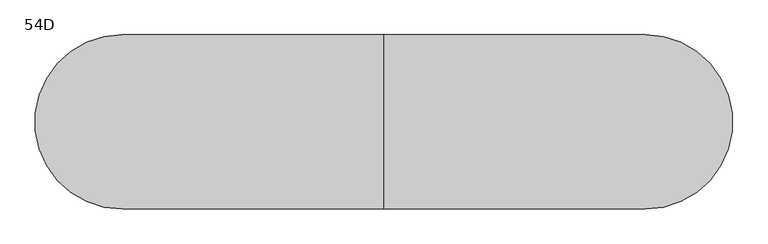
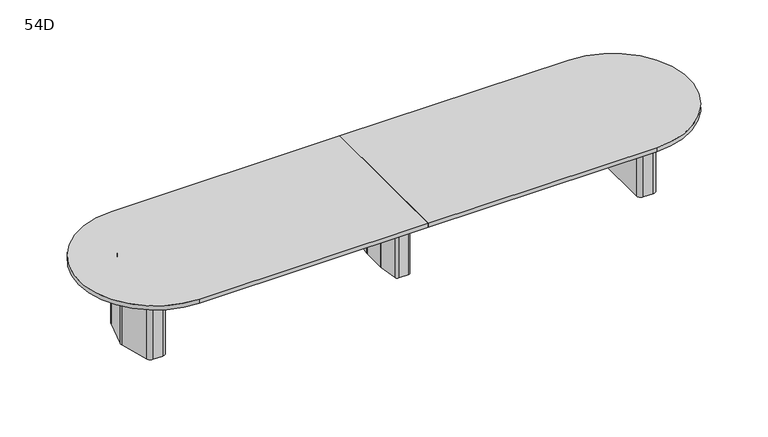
"""IFC4 building model written with IfcOpenShell, lengths in millimetres: furniture geometry, Coalesse_AM_Table_Conference_ETable2_Racetrack_18ft_ThreeBase : 54D."""

from ifc_helpers import new_model, si_unit, point, frame, frame_2d, origin, place, context, project, spatial, polyline, circle_curve, trimmed, segment, composite_curve, outline, extrude, source, transform, mapped, element, save
from ifc_brep_helpers import plane_surface, cylinder_surface, revolved_surface, advanced_brep


def furniture_54d_5d23f60c(model_context):
    return source(origin(), model_context, "Body", "SolidModel", [
        advanced_brep(
        [(35.71875, 206.375, 3.175), (10.31875, 231.775, 3.175), (-10.31875, 231.775, 3.175), (-35.71875, 206.375, 3.175), (-35.71875, -206.375, 3.175), (-10.31875, -231.775, 3.175), (10.31875, -231.775, 3.175), (35.71875, -206.375, 3.175), (-61.11875, 206.375, 0.0), (-10.31875, 257.175, 0.0), (10.31875, 257.175, 0.0), (61.11875, 206.375, 0.0), (61.11875, -206.375, 0.0), (10.31875, -257.175, 0.0), (-10.31875, -257.175, 0.0), (-61.11875, -206.375, 0.0), (-61.11875, -206.375, 3.175), (-61.11875, 206.375, 3.175), (-10.31875, -257.175, 3.175), (10.31875, -257.175, 3.175), (61.11875, -206.375, 3.175), (61.11875, 206.375, 3.175), (10.31875, 257.175, 3.175), (-10.31875, 257.175, 3.175), (-92.6215974, 106.2976848, 698.5), (-92.86875, 102.7629613, 698.5), (-92.86875, -102.7629613, 698.5), (-92.6215974, -106.2976848, 698.5), (-67.7988375, -282.9347235, 698.5), (-42.6459902, -304.8, 698.5), (42.6459902, -304.8, 698.5), (67.7988375, -282.9347235, 698.5), (92.6215974, -106.2976848, 698.5), (92.86875, -102.7629613, 698.5), (92.86875, 102.7629613, 698.5), (92.6215974, 106.2976848, 698.5), (67.7988375, 282.9347235, 698.5), (42.6459902, 304.8, 698.5), (-42.6459902, 304.8, 698.5), (-67.7988375, 282.9347235, 698.5), (10.31875, 231.775, 698.5), (35.71875, 206.375, 698.5), (35.71875, -206.375, 698.5), (10.31875, -231.775, 698.5), (-10.31875, -231.775, 698.5), (-35.71875, -206.375, 698.5), (-35.71875, 206.375, 698.5), (-10.31875, 231.775, 698.5), (-92.6215974, 106.2976848, 3.175), (-67.7988375, 282.9347235, 3.175), (-42.6459902, 304.8, 3.175), (42.6459902, 304.8, 3.175), (67.7988375, 282.9347235, 3.175), (92.6215974, 106.2976848, 3.175), (92.86875, 102.7629613, 3.175), (92.86875, -102.7629613, 3.175), (92.6215974, -106.2976848, 3.175), (67.7988375, -282.9347235, 3.175), (42.6459902, -304.8, 3.175), (-42.6459902, -304.8, 3.175), (-67.7988375, -282.9347235, 3.175), (-92.6215974, -106.2976848, 3.175), (-92.86875, -102.7629613, 3.175), (-92.86875, 102.7629613, 3.175)],
        [
            (0, 1, circle_curve(frame((10.31875, 206.375, 3.175), z_axis=(0.0, 0.0, 1.0), x_axis=(1.0, 0.0, 0.0)), 25.4)),
            (1, 2),
            (2, 3, circle_curve(frame((-10.31875, 206.375, 3.175), z_axis=(0.0, 0.0, 1.0), x_axis=(1.0, 0.0, 0.0)), 25.4)),
            (3, 4),
            (4, 5, circle_curve(frame((-10.31875, -206.375, 3.175), z_axis=(0.0, 0.0, 1.0), x_axis=(1.0, 0.0, 0.0)), 25.4)),
            (5, 6),
            (6, 7, circle_curve(frame((10.31875, -206.375, 3.175), z_axis=(0.0, 0.0, 1.0), x_axis=(1.0, 0.0, 0.0)), 25.4)),
            (7, 0),
            (8, 9, circle_curve(frame((-10.31875, 206.375, 0.0), z_axis=(0.0, 0.0, -1.0), x_axis=(1.0, 0.0, 0.0)), 50.8)),
            (9, 10),
            (10, 11, circle_curve(frame((10.31875, 206.375, 0.0), z_axis=(0.0, 0.0, -1.0), x_axis=(1.0, 0.0, 0.0)), 50.8)),
            (11, 12),
            (12, 13, circle_curve(frame((10.31875, -206.375, 0.0), z_axis=(0.0, 0.0, -1.0), x_axis=(1.0, 0.0, 0.0)), 50.8)),
            (13, 14),
            (14, 15, circle_curve(frame((-10.31875, -206.375, 0.0), z_axis=(0.0, 0.0, -1.0), x_axis=(1.0, 0.0, 0.0)), 50.8)),
            (15, 8),
            (15, 16),
            (16, 17),
            (17, 8),
            (14, 18),
            (18, 16, circle_curve(frame((-10.31875, -206.375, 3.175), z_axis=(0.0, 0.0, -1.0), x_axis=(1.0, 0.0, 0.0)), 50.8)),
            (13, 19),
            (19, 18),
            (12, 20),
            (20, 19, circle_curve(frame((10.31875, -206.375, 3.175), z_axis=(0.0, 0.0, -1.0), x_axis=(1.0, 0.0, 0.0)), 50.8)),
            (11, 21),
            (21, 20),
            (10, 22),
            (22, 21, circle_curve(frame((10.31875, 206.375, 3.175), z_axis=(0.0, 0.0, -1.0), x_axis=(1.0, 0.0, 0.0)), 50.8)),
            (9, 23),
            (23, 22),
            (17, 23, circle_curve(frame((-10.31875, 206.375, 3.175), z_axis=(0.0, 0.0, -1.0), x_axis=(1.0, 0.0, 0.0)), 50.8)),
            (24, 25, circle_curve(frame((-67.46875, 102.7629613, 698.5), z_axis=(0.0, 0.0, 1.0), x_axis=(1.0, 0.0, 0.0)), 25.4)),
            (25, 26),
            (26, 27, circle_curve(frame((-67.46875, -102.7629613, 698.5), z_axis=(0.0, 0.0, 1.0), x_axis=(1.0, 0.0, 0.0)), 25.4)),
            (27, 28),
            (28, 29, circle_curve(frame((-42.6459902, -279.4, 698.5), z_axis=(0.0, 0.0, 1.0), x_axis=(1.0, 0.0, 0.0)), 25.4)),
            (29, 30),
            (30, 31, circle_curve(frame((42.6459902, -279.4, 698.5), z_axis=(0.0, 0.0, 1.0), x_axis=(1.0, 0.0, 0.0)), 25.4)),
            (31, 32),
            (32, 33, circle_curve(frame((67.46875, -102.7629613, 698.5), z_axis=(0.0, 0.0, 1.0), x_axis=(1.0, 0.0, 0.0)), 25.4)),
            (33, 34),
            (34, 35, circle_curve(frame((67.46875, 102.7629613, 698.5), z_axis=(0.0, 0.0, 1.0), x_axis=(1.0, 0.0, 0.0)), 25.4)),
            (35, 36),
            (36, 37, circle_curve(frame((42.6459902, 279.4, 698.5), z_axis=(0.0, 0.0, 1.0), x_axis=(1.0, 0.0, 0.0)), 25.4)),
            (37, 38),
            (38, 39, circle_curve(frame((-42.6459902, 279.4, 698.5), z_axis=(0.0, 0.0, 1.0), x_axis=(1.0, 0.0, 0.0)), 25.4)),
            (39, 24),
            (40, 41, circle_curve(frame((10.31875, 206.375, 698.5), z_axis=(0.0, 0.0, -1.0), x_axis=(1.0, 0.0, 0.0)), 25.4)),
            (41, 42),
            (42, 43, circle_curve(frame((10.31875, -206.375, 698.5), z_axis=(0.0, 0.0, -1.0), x_axis=(1.0, 0.0, 0.0)), 25.4)),
            (43, 44),
            (44, 45, circle_curve(frame((-10.31875, -206.375, 698.5), z_axis=(0.0, 0.0, -1.0), x_axis=(1.0, 0.0, 0.0)), 25.4)),
            (45, 46),
            (46, 47, circle_curve(frame((-10.31875, 206.375, 698.5), z_axis=(0.0, 0.0, -1.0), x_axis=(1.0, 0.0, 0.0)), 25.4)),
            (47, 40),
            (48, 49),
            (49, 50, circle_curve(frame((-42.6459902, 279.4, 3.175), z_axis=(0.0, 0.0, -1.0), x_axis=(1.0, 0.0, 0.0)), 25.4)),
            (50, 51),
            (51, 52, circle_curve(frame((42.6459902, 279.4, 3.175), z_axis=(0.0, 0.0, -1.0), x_axis=(1.0, 0.0, 0.0)), 25.4)),
            (52, 53),
            (53, 54, circle_curve(frame((67.46875, 102.7629613, 3.175), z_axis=(0.0, 0.0, -1.0), x_axis=(1.0, 0.0, 0.0)), 25.4)),
            (54, 55),
            (55, 56, circle_curve(frame((67.46875, -102.7629613, 3.175), z_axis=(0.0, 0.0, -1.0), x_axis=(1.0, 0.0, 0.0)), 25.4)),
            (56, 57),
            (57, 58, circle_curve(frame((42.6459902, -279.4, 3.175), z_axis=(0.0, 0.0, -1.0), x_axis=(1.0, 0.0, 0.0)), 25.4)),
            (58, 59),
            (59, 60, circle_curve(frame((-42.6459902, -279.4, 3.175), z_axis=(0.0, 0.0, -1.0), x_axis=(1.0, 0.0, 0.0)), 25.4)),
            (60, 61),
            (61, 62, circle_curve(frame((-67.46875, -102.7629613, 3.175), z_axis=(0.0, 0.0, -1.0), x_axis=(1.0, 0.0, 0.0)), 25.4)),
            (62, 63),
            (63, 48, circle_curve(frame((-67.46875, 102.7629613, 3.175), z_axis=(0.0, 0.0, -1.0), x_axis=(1.0, 0.0, 0.0)), 25.4)),
            (24, 48),
            (63, 25),
            (62, 26),
            (61, 27),
            (60, 28),
            (59, 29),
            (58, 30),
            (57, 31),
            (56, 32),
            (55, 33),
            (54, 34),
            (53, 35),
            (52, 36),
            (51, 37),
            (50, 38),
            (49, 39),
            (40, 1),
            (0, 41),
            (7, 42),
            (6, 43),
            (5, 44),
            (4, 45),
            (3, 46),
            (2, 47),
        ],
        [
            plane_surface(frame((-61.11875, -206.375, 3.175), z_axis=(0.0, 0.0, 1.0), x_axis=(0.0, -1.0, 0.0))),
            plane_surface(frame((-61.11875, -206.375, 0.0), z_axis=(0.0, 0.0, -1.0), x_axis=(0.0, 1.0, 0.0))),
            plane_surface(frame((-61.11875, 206.375, 3.175), z_axis=(-1.0, 0.0, 0.0), x_axis=(0.0, 0.0, -1.0))),
            cylinder_surface(frame((-10.31875, -206.375, 0.0), z_axis=(0.0, 0.0, 1.0), x_axis=(1.0, 0.0, 0.0)), 50.8),
            plane_surface(frame((-10.31875, -257.175, 3.175), z_axis=(0.0, -1.0, 0.0), x_axis=(0.0, 0.0, -1.0))),
            cylinder_surface(frame((10.31875, -206.375, 0.0), z_axis=(0.0, 0.0, 1.0), x_axis=(1.0, 0.0, 0.0)), 50.8),
            plane_surface(frame((61.11875, -206.375, 3.175), z_axis=(1.0, 0.0, 0.0), x_axis=(0.0, 0.0, -1.0))),
            cylinder_surface(frame((10.31875, 206.375, 0.0), z_axis=(0.0, 0.0, 1.0), x_axis=(1.0, 0.0, 0.0)), 50.8),
            plane_surface(frame((10.31875, 257.175, 3.175), z_axis=(0.0, 1.0, 0.0), x_axis=(0.0, 0.0, -1.0))),
            cylinder_surface(frame((-10.31875, 206.375, 0.0), z_axis=(0.0, 0.0, 1.0), x_axis=(1.0, 0.0, 0.0)), 50.8),
            plane_surface(frame((-42.06875, 102.7629613, 698.5), z_axis=(0.0, 0.0, 1.0), x_axis=(0.0, 1.0, 0.0))),
            plane_surface(frame((-42.06875, 102.7629613, 3.175), z_axis=(0.0, 0.0, -1.0), x_axis=(0.0, -1.0, 0.0))),
            cylinder_surface(frame((-67.46875, 102.7629613, 3.175), z_axis=(0.0, 0.0, 1.0), x_axis=(1.0, 0.0, 0.0)), 25.4),
            plane_surface(frame((-92.86875, 102.7629613, 698.5), z_axis=(-1.0, 0.0, 0.0), x_axis=(0.0, 0.0, -1.0))),
            cylinder_surface(frame((-67.46875, -102.7629613, 3.175), z_axis=(0.0, 0.0, 1.0), x_axis=(1.0, 0.0, 0.0)), 25.4),
            plane_surface(frame((-92.6215974, -106.2976848, 698.5), z_axis=(-0.9902695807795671, -0.13916234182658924, 0.0), x_axis=(0.0, 0.0, -1.0))),
            cylinder_surface(frame((-42.6459902, -279.4, 3.175), z_axis=(0.0, 0.0, 1.0), x_axis=(1.0, 0.0, 0.0)), 25.4),
            plane_surface(frame((-42.6459902, -304.8, 698.5), z_axis=(0.0, -1.0, 0.0), x_axis=(0.0, 0.0, -1.0))),
            cylinder_surface(frame((42.6459902, -279.4, 3.175), z_axis=(0.0, 0.0, 1.0), x_axis=(1.0, 0.0, 0.0)), 25.4),
            plane_surface(frame((67.7988375, -282.9347235, 698.5), z_axis=(0.9902695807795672, -0.13916234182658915, 0.0), x_axis=(0.0, 0.0, -1.0))),
            cylinder_surface(frame((67.46875, -102.7629613, 3.175), z_axis=(0.0, 0.0, 1.0), x_axis=(1.0, 0.0, 0.0)), 25.4),
            plane_surface(frame((92.86875, -102.7629613, 698.5), z_axis=(1.0, 0.0, 0.0), x_axis=(0.0, 0.0, -1.0))),
            cylinder_surface(frame((67.46875, 102.7629613, 3.175), z_axis=(0.0, 0.0, 1.0), x_axis=(1.0, 0.0, 0.0)), 25.4),
            plane_surface(frame((92.6215974, 106.2976848, 698.5), z_axis=(0.9902695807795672, 0.1391623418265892, 0.0), x_axis=(0.0, 0.0, -1.0))),
            cylinder_surface(frame((42.6459902, 279.4, 3.175), z_axis=(0.0, 0.0, 1.0), x_axis=(1.0, 0.0, 0.0)), 25.4),
            plane_surface(frame((42.6459902, 304.8, 698.5), z_axis=(0.0, 1.0, 0.0), x_axis=(0.0, 0.0, -1.0))),
            cylinder_surface(frame((-42.6459902, 279.4, 3.175), z_axis=(0.0, 0.0, 1.0), x_axis=(1.0, 0.0, 0.0)), 25.4),
            plane_surface(frame((-67.7988375, 282.9347235, 698.5), z_axis=(-0.9902695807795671, 0.13916234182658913, 0.0), x_axis=(0.0, 0.0, -1.0))),
            revolved_surface(polyline([(35.71875, 206.375, 3.175), (35.71875, 206.375, 698.5)]), (10.31875, 206.375, 0.0), (0.0, 0.0, -1.0)),
            plane_surface(frame((35.71875, 206.375, 698.5), z_axis=(-1.0, 0.0, 0.0), x_axis=(0.0, 0.0, -1.0))),
            revolved_surface(polyline([(35.71875, -206.375, 3.175), (35.71875, -206.375, 698.5)]), (10.31875, -206.375, 0.0), (0.0, 0.0, -1.0)),
            plane_surface(frame((10.31875, -231.775, 698.5), z_axis=(0.0, 1.0, 0.0), x_axis=(0.0, 0.0, -1.0))),
            revolved_surface(polyline([(15.081249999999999, -206.375, 3.175), (15.081249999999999, -206.375, 698.5)]), (-10.31875, -206.375, 0.0), (0.0, 0.0, -1.0)),
            plane_surface(frame((-35.71875, -206.375, 698.5), z_axis=(1.0, 0.0, 0.0), x_axis=(0.0, 0.0, -1.0))),
            revolved_surface(polyline([(15.081249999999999, 206.375, 3.175), (15.081249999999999, 206.375, 698.5)]), (-10.31875, 206.375, 0.0), (0.0, 0.0, -1.0)),
            plane_surface(frame((-10.31875, 231.775, 698.5), z_axis=(0.0, -1.0, 0.0), x_axis=(0.0, 0.0, -1.0))),
        ],
        [
            (0, [[1, 2, 3, 4, 5, 6, 7, 8]]),
            (1, [[9, 10, 11, 12, 13, 14, 15, 16]]),
            (2, [[-16, 17, 18, 19]]),
            (3, [[-15, 20, 21, -17]]),
            (4, [[-14, 22, 23, -20]]),
            (5, [[-13, 24, 25, -22]]),
            (6, [[-12, 26, 27, -24]]),
            (7, [[-11, 28, 29, -26]]),
            (8, [[-10, 30, 31, -28]]),
            (9, [[-9, -19, 32, -30]]),
            (10, [[33, 34, 35, 36, 37, 38, 39, 40, 41, 42, 43, 44, 45, 46, 47, 48], [49, 50, 51, 52, 53, 54, 55, 56]]),
            (11, [[57, 58, 59, 60, 61, 62, 63, 64, 65, 66, 67, 68, 69, 70, 71, 72], [-18, -21, -23, -25, -27, -29, -31, -32]]),
            (12, [[-33, 73, -72, 74]]),
            (13, [[-34, -74, -71, 75]]),
            (14, [[-35, -75, -70, 76]]),
            (15, [[-36, -76, -69, 77]]),
            (16, [[-37, -77, -68, 78]]),
            (17, [[-38, -78, -67, 79]]),
            (18, [[-39, -79, -66, 80]]),
            (19, [[-40, -80, -65, 81]]),
            (20, [[-41, -81, -64, 82]]),
            (21, [[-42, -82, -63, 83]]),
            (22, [[-43, -83, -62, 84]]),
            (23, [[-44, -84, -61, 85]]),
            (24, [[-45, -85, -60, 86]]),
            (25, [[-46, -86, -59, 87]]),
            (26, [[-47, -87, -58, 88]]),
            (27, [[-48, -88, -57, -73]]),
            (28, [[-49, 89, -1, 90]]),
            (29, [[-50, -90, -8, 91]]),
            (30, [[-51, -91, -7, 92]]),
            (31, [[-52, -92, -6, 93]]),
            (32, [[-53, -93, -5, 94]]),
            (33, [[-54, -94, -4, 95]]),
            (34, [[-55, -95, -3, 96]]),
            (35, [[-56, -96, -2, -89]]),
        ],
    ),
        advanced_brep(
        [(2284.624548, 274.2093613, 698.5), (2244.7579246, 304.8, 698.5), (2155.825, 304.8, 698.5), (2114.55, 263.525, 698.5), (2114.55, -263.525, 698.5), (2155.825, -304.8, 698.5), (2244.7579246, -304.8, 698.5), (2284.624548, -274.2093613, 698.5), (2355.2503901, -10.6333708, 698.5), (2355.2503901, 10.6333708, 698.5), (2152.65, -206.375, 698.5), (2152.65, 206.375, 698.5), (2178.05, 231.775, 698.5), (2237.0608422, 231.775, 698.5), (2261.595338, 212.9490792, 698.5), (2300.2875, 68.54974, 698.5), (2300.2875, -68.54974, 698.5), (2261.595338, -212.9490792, 698.5), (2237.0608422, -231.775, 698.5), (2178.05, -231.775, 698.5), (2284.624548, 274.2093613, 3.175), (2355.2503901, 10.6333708, 3.175), (2355.2503901, -10.6333708, 3.175), (2284.624548, -274.2093613, 3.175), (2244.7579246, -304.8, 3.175), (2155.825, -304.8, 3.175), (2114.55, -263.525, 3.175), (2114.55, 263.525, 3.175), (2155.825, 304.8, 3.175), (2244.7579246, 304.8, 3.175), (2273.8625859, 216.2361187, 3.175), (2237.0608422, 244.475, 3.175), (2178.05, 244.475, 3.175), (2139.95, 206.375, 3.175), (2139.95, -206.375, 3.175), (2178.05, -244.475, 3.175), (2237.0608422, -244.475, 3.175), (2273.8625859, -216.2361187, 3.175), (2312.9875, -70.2217466, 3.175), (2312.9875, 70.2217466, 3.175), (2178.05, -231.775, 3.175), (2152.65, -206.375, 3.175), (2237.0608422, -231.775, 3.175), (2261.595338, -212.9490792, 3.175), (2300.2875, -68.54974, 3.175), (2300.2875, 68.54974, 3.175), (2261.595338, 212.9490792, 3.175), (2237.0608422, 231.775, 3.175), (2178.05, 231.775, 3.175), (2152.65, 206.375, 3.175), (2273.8625859, 216.2361187, 0.0), (2312.9875, 70.2217466, 0.0), (2312.9875, -70.2217466, 0.0), (2273.8625859, -216.2361187, 0.0), (2237.0608422, -244.475, 0.0), (2178.05, -244.475, 0.0), (2139.95, -206.375, 0.0), (2139.95, 206.375, 0.0), (2178.05, 244.475, 0.0), (2237.0608422, 244.475, 0.0)],
        [
            (0, 1, circle_curve(frame((2244.7579246, 263.5270004, 698.5), z_axis=(0.0, 0.0, 1.0), x_axis=(-1.0, 0.0, 0.0)), 41.2729996)),
            (1, 2),
            (2, 3, circle_curve(frame((2155.825, 263.525, 698.5), z_axis=(0.0, 0.0, 1.0), x_axis=(-1.0, 0.0, 0.0)), 41.275)),
            (3, 4),
            (4, 5, circle_curve(frame((2155.825, -263.525, 698.5), z_axis=(0.0, 0.0, 1.0), x_axis=(-1.0, 0.0, 0.0)), 41.275)),
            (5, 6),
            (6, 7, circle_curve(frame((2244.7579246, -263.5270004, 698.5), z_axis=(0.0, 0.0, 1.0), x_axis=(-1.0, 0.0, 0.0)), 41.2729996)),
            (7, 8),
            (8, 9, circle_curve(frame((2315.5665979, 0.0, 698.5), z_axis=(0.0, 0.0, 1.0), x_axis=(-1.0, 0.0, 0.0)), 41.0837187)),
            (9, 0),
            (10, 11),
            (11, 12, circle_curve(frame((2178.05, 206.375, 698.5), z_axis=(0.0, 0.0, -1.0), x_axis=(-1.0, 0.0, 0.0)), 25.4)),
            (12, 13),
            (13, 14, circle_curve(frame((2237.0608422, 206.375, 698.5), z_axis=(0.0, 0.0, -1.0), x_axis=(-1.0, 0.0, 0.0)), 25.4)),
            (14, 15),
            (15, 16),
            (16, 17),
            (17, 18, circle_curve(frame((2237.0608422, -206.375, 698.5), z_axis=(0.0, 0.0, -1.0), x_axis=(-1.0, 0.0, 0.0)), 25.4)),
            (18, 19),
            (19, 10, circle_curve(frame((2178.05, -206.375, 698.5), z_axis=(0.0, 0.0, -1.0), x_axis=(-1.0, 0.0, 0.0)), 25.4)),
            (20, 21),
            (21, 22, circle_curve(frame((2315.5665979, 0.0, 3.175), z_axis=(0.0, 0.0, -1.0), x_axis=(-1.0, 0.0, 0.0)), 41.0837187)),
            (22, 23),
            (23, 24, circle_curve(frame((2244.7579246, -263.5270004, 3.175), z_axis=(0.0, 0.0, -1.0), x_axis=(-1.0, 0.0, 0.0)), 41.2729996)),
            (24, 25),
            (25, 26, circle_curve(frame((2155.825, -263.525, 3.175), z_axis=(0.0, 0.0, -1.0), x_axis=(-1.0, 0.0, 0.0)), 41.275)),
            (26, 27),
            (27, 28, circle_curve(frame((2155.825, 263.525, 3.175), z_axis=(0.0, 0.0, -1.0), x_axis=(-1.0, 0.0, 0.0)), 41.275)),
            (28, 29),
            (29, 20, circle_curve(frame((2244.7579246, 263.5270004, 3.175), z_axis=(0.0, 0.0, -1.0), x_axis=(-1.0, 0.0, 0.0)), 41.2729996)),
            (30, 31, circle_curve(frame((2237.0608422, 206.375, 3.175), z_axis=(0.0, 0.0, 1.0), x_axis=(-1.0, 0.0, 0.0)), 38.1)),
            (31, 32),
            (32, 33, circle_curve(frame((2178.05, 206.375, 3.175), z_axis=(0.0, 0.0, 1.0), x_axis=(-1.0, 0.0, 0.0)), 38.1)),
            (33, 34),
            (34, 35, circle_curve(frame((2178.05, -206.375, 3.175), z_axis=(0.0, 0.0, 1.0), x_axis=(-1.0, 0.0, 0.0)), 38.1)),
            (35, 36),
            (36, 37, circle_curve(frame((2237.0608422, -206.375, 3.175), z_axis=(0.0, 0.0, 1.0), x_axis=(-1.0, 0.0, 0.0)), 38.1)),
            (37, 38),
            (38, 39),
            (39, 30),
            (9, 21),
            (20, 0),
            (8, 22),
            (7, 23),
            (6, 24),
            (5, 25),
            (4, 26),
            (3, 27),
            (2, 28),
            (1, 29),
            (19, 40),
            (40, 41, circle_curve(frame((2178.05, -206.375, 3.175), z_axis=(0.0, 0.0, -1.0), x_axis=(-1.0, 0.0, 0.0)), 25.4)),
            (41, 10),
            (18, 42),
            (42, 40),
            (17, 43),
            (43, 42, circle_curve(frame((2237.0608422, -206.375, 3.175), z_axis=(0.0, 0.0, -1.0), x_axis=(-1.0, 0.0, 0.0)), 25.4)),
            (16, 44),
            (44, 43),
            (15, 45),
            (45, 44),
            (14, 46),
            (46, 45),
            (13, 47),
            (47, 46, circle_curve(frame((2237.0608422, 206.375, 3.175), z_axis=(0.0, 0.0, -1.0), x_axis=(-1.0, 0.0, 0.0)), 25.4)),
            (12, 48),
            (48, 47),
            (11, 49),
            (49, 48, circle_curve(frame((2178.05, 206.375, 3.175), z_axis=(0.0, 0.0, -1.0), x_axis=(-1.0, 0.0, 0.0)), 25.4)),
            (41, 49),
            (50, 51),
            (51, 52),
            (52, 53),
            (53, 54, circle_curve(frame((2237.0608422, -206.375, 0.0), z_axis=(0.0, 0.0, -1.0), x_axis=(-1.0, 0.0, 0.0)), 38.1)),
            (54, 55),
            (55, 56, circle_curve(frame((2178.05, -206.375, 0.0), z_axis=(0.0, 0.0, -1.0), x_axis=(-1.0, 0.0, 0.0)), 38.1)),
            (56, 57),
            (57, 58, circle_curve(frame((2178.05, 206.375, 0.0), z_axis=(0.0, 0.0, -1.0), x_axis=(-1.0, 0.0, 0.0)), 38.1)),
            (58, 59),
            (59, 50, circle_curve(frame((2237.0608422, 206.375, 0.0), z_axis=(0.0, 0.0, -1.0), x_axis=(-1.0, 0.0, 0.0)), 38.1)),
            (50, 30),
            (39, 51),
            (38, 52),
            (37, 53),
            (36, 54),
            (35, 55),
            (34, 56),
            (33, 57),
            (32, 58),
            (31, 59),
        ],
        [
            plane_surface(frame((2355.2374275, 10.6817473, 698.5), z_axis=(0.0, 0.0, 1.0000000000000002), x_axis=(0.25882201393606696, -0.9659250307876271, 0.0))),
            plane_surface(frame((2355.2374275, 10.6817473, 3.175), z_axis=(0.0, 0.0, -1.0000000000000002), x_axis=(-0.25882201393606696, 0.9659250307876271, 0.0))),
            plane_surface(frame((2284.624548, 274.2093613, 698.5), z_axis=(0.9659250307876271, 0.25882201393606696, 0.0), x_axis=(0.0, 0.0, -1.0))),
            cylinder_surface(frame((2315.5665979, 0.0, 3.175), z_axis=(0.0, 0.0, 1.0), x_axis=(-1.0, 0.0, 0.0)), 41.0837187),
            plane_surface(frame((2355.2503901, -10.6333708, 698.5), z_axis=(0.9659250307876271, -0.2588220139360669, 0.0), x_axis=(0.0, 0.0, -1.0))),
            cylinder_surface(frame((2244.7579246, -263.5270004, 3.175), z_axis=(0.0, 0.0, 1.0), x_axis=(-1.0, 0.0, 0.0)), 41.2729996),
            plane_surface(frame((2244.7579246, -304.8, 698.5), z_axis=(0.0, -1.0, 0.0), x_axis=(0.0, 0.0, -1.0))),
            cylinder_surface(frame((2155.825, -263.525, 3.175), z_axis=(0.0, 0.0, 1.0), x_axis=(-1.0, 0.0, 0.0)), 41.275),
            plane_surface(frame((2114.55, -263.525, 698.5), z_axis=(-1.0, 0.0, 0.0), x_axis=(0.0, 0.0, -1.0))),
            cylinder_surface(frame((2155.825, 263.525, 3.175), z_axis=(0.0, 0.0, 1.0), x_axis=(-1.0, 0.0, 0.0)), 41.275),
            plane_surface(frame((2155.825, 304.8, 698.5), z_axis=(0.0, 1.0, 0.0), x_axis=(0.0, 0.0, -1.0))),
            cylinder_surface(frame((2244.7579246, 263.5270004, 3.175), z_axis=(0.0, 0.0, 1.0), x_axis=(-1.0, 0.0, 0.0)), 41.2729996),
            revolved_surface(polyline([(2152.65, -206.375, 3.175), (2152.65, -206.375, 698.5)]), (2178.05, -206.375, 0.0), (0.0, 0.0, -1.0)),
            plane_surface(frame((2178.05, -231.775, 698.5), z_axis=(0.0, 1.0, 0.0), x_axis=(0.0, 0.0, -1.0))),
            revolved_surface(polyline([(2211.6608422, -206.375, 3.175), (2211.6608422, -206.375, 698.5)]), (2237.0608422, -206.375, 0.0), (0.0, 0.0, -1.0)),
            plane_surface(frame((2261.595338, -212.9490792, 698.5), z_axis=(-0.9659250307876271, 0.2588220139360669, 0.0), x_axis=(0.0, 0.0, -1.0))),
            plane_surface(frame((2300.2875, -68.54974, 698.5), z_axis=(-1.0, 0.0, 0.0), x_axis=(0.0, 0.0, -1.0))),
            plane_surface(frame((2300.2875, 68.54974, 698.5), z_axis=(-0.9659250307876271, -0.25882201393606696, 0.0), x_axis=(0.0, 0.0, -1.0))),
            revolved_surface(polyline([(2211.6608422, 206.375, 3.175), (2211.6608422, 206.375, 698.5)]), (2237.0608422, 206.375, 0.0), (0.0, 0.0, -1.0)),
            plane_surface(frame((2237.0608422, 231.775, 698.5), z_axis=(0.0, -1.0, 0.0), x_axis=(0.0, 0.0, -1.0))),
            revolved_surface(polyline([(2152.65, 206.375, 3.175), (2152.65, 206.375, 698.5)]), (2178.05, 206.375, 0.0), (0.0, 0.0, -1.0)),
            plane_surface(frame((2152.65, 206.375, 698.5), z_axis=(1.0, 0.0, 0.0), x_axis=(0.0, 0.0, -1.0))),
            plane_surface(frame((2312.5547479, 71.8367796, 3.175), z_axis=(0.0, 0.0, 1.0), x_axis=(0.25882201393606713, -0.965925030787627, 0.0))),
            plane_surface(frame((2312.5547479, 71.8367796, 0.0), z_axis=(0.0, 0.0, -1.0), x_axis=(-0.25882201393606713, 0.965925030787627, 0.0))),
            plane_surface(frame((2273.8625859, 216.2361187, 3.175), z_axis=(0.965925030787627, 0.25882201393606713, 0.0), x_axis=(0.0, 0.0, -1.0))),
            plane_surface(frame((2312.9875, 70.2217466, 3.175), z_axis=(1.0, 0.0, 0.0), x_axis=(0.0, 0.0, -1.0))),
            plane_surface(frame((2312.9875, -70.2217466, 3.175), z_axis=(0.9659250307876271, -0.2588220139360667, 0.0), x_axis=(0.0, 0.0, -1.0))),
            cylinder_surface(frame((2237.0608422, -206.375, 0.0), z_axis=(0.0, 0.0, 1.0), x_axis=(-1.0, 0.0, 0.0)), 38.1),
            plane_surface(frame((2237.0608422, -244.475, 3.175), z_axis=(0.0, -1.0, 0.0), x_axis=(0.0, 0.0, -1.0))),
            cylinder_surface(frame((2178.05, -206.375, 0.0), z_axis=(0.0, 0.0, 1.0), x_axis=(-1.0, 0.0, 0.0)), 38.1),
            plane_surface(frame((2139.95, -206.375, 3.175), z_axis=(-1.0, 0.0, 0.0), x_axis=(0.0, 0.0, -1.0))),
            cylinder_surface(frame((2178.05, 206.375, 0.0), z_axis=(0.0, 0.0, 1.0), x_axis=(-1.0, 0.0, 0.0)), 38.1),
            plane_surface(frame((2178.05, 244.475, 3.175), z_axis=(0.0, 1.0, 0.0), x_axis=(0.0, 0.0, -1.0))),
            cylinder_surface(frame((2237.0608422, 206.375, 0.0), z_axis=(0.0, 0.0, 1.0), x_axis=(-1.0, 0.0, 0.0)), 38.1),
        ],
        [
            (0, [[1, 2, 3, 4, 5, 6, 7, 8, 9, 10], [11, 12, 13, 14, 15, 16, 17, 18, 19, 20]]),
            (1, [[21, 22, 23, 24, 25, 26, 27, 28, 29, 30], [31, 32, 33, 34, 35, 36, 37, 38, 39, 40]]),
            (2, [[41, -21, 42, -10]]),
            (3, [[43, -22, -41, -9]]),
            (4, [[44, -23, -43, -8]]),
            (5, [[45, -24, -44, -7]]),
            (6, [[46, -25, -45, -6]]),
            (7, [[47, -26, -46, -5]]),
            (8, [[48, -27, -47, -4]]),
            (9, [[49, -28, -48, -3]]),
            (10, [[50, -29, -49, -2]]),
            (11, [[-42, -30, -50, -1]]),
            (12, [[51, 52, 53, -20]]),
            (13, [[54, 55, -51, -19]]),
            (14, [[56, 57, -54, -18]]),
            (15, [[58, 59, -56, -17]]),
            (16, [[60, 61, -58, -16]]),
            (17, [[62, 63, -60, -15]]),
            (18, [[64, 65, -62, -14]]),
            (19, [[66, 67, -64, -13]]),
            (20, [[68, 69, -66, -12]]),
            (21, [[-53, 70, -68, -11]]),
            (22, [[-55, -57, -59, -61, -63, -65, -67, -69, -70, -52]]),
            (23, [[71, 72, 73, 74, 75, 76, 77, 78, 79, 80]]),
            (24, [[81, -40, 82, -71]]),
            (25, [[-82, -39, 83, -72]]),
            (26, [[-83, -38, 84, -73]]),
            (27, [[-84, -37, 85, -74]]),
            (28, [[-85, -36, 86, -75]]),
            (29, [[-86, -35, 87, -76]]),
            (30, [[-87, -34, 88, -77]]),
            (31, [[-88, -33, 89, -78]]),
            (32, [[-89, -32, 90, -79]]),
            (33, [[-90, -31, -81, -80]]),
        ],
    ),
        advanced_brep(
        [(-2295.737048, 274.2093613, 698.5), (-2366.3628901, 10.6333708, 698.5), (-2366.3628901, -10.6333708, 698.5), (-2295.737048, -274.2093613, 698.5), (-2255.8704246, -304.8, 698.5), (-2166.9375, -304.8, 698.5), (-2125.6625, -263.525, 698.5), (-2125.6625, 263.525, 698.5), (-2166.9375, 304.8, 698.5), (-2255.8704246, 304.8, 698.5), (-2163.7625, -206.375, 698.5), (-2189.1625, -231.775, 698.5), (-2248.1733422, -231.775, 698.5), (-2272.707838, -212.9490792, 698.5), (-2311.4, -68.54974, 698.5), (-2311.4, 68.54974, 698.5), (-2272.707838, 212.9490792, 698.5), (-2248.1733422, 231.775, 698.5), (-2189.1625, 231.775, 698.5), (-2163.7625, 206.375, 698.5), (-2295.737048, 274.2093613, 3.175), (-2255.8704246, 304.8, 3.175), (-2166.9375, 304.8, 3.175), (-2125.6625, 263.525, 3.175), (-2125.6625, -263.525, 3.175), (-2166.9375, -304.8, 3.175), (-2255.8704246, -304.8, 3.175), (-2295.737048, -274.2093613, 3.175), (-2366.3628901, -10.6333708, 3.175), (-2366.3628901, 10.6333708, 3.175), (-2284.9750859, 216.2361187, 3.175), (-2324.1, 70.2217466, 3.175), (-2324.1, -70.2217466, 3.175), (-2284.9750859, -216.2361187, 3.175), (-2248.1733422, -244.475, 3.175), (-2189.1625, -244.475, 3.175), (-2151.0625, -206.375, 3.175), (-2151.0625, 206.375, 3.175), (-2189.1625, 244.475, 3.175), (-2248.1733422, 244.475, 3.175), (-2163.7625, -206.375, 3.175), (-2189.1625, -231.775, 3.175), (-2248.1733422, -231.775, 3.175), (-2272.707838, -212.9490792, 3.175), (-2311.4, -68.54974, 3.175), (-2311.4, 68.54974, 3.175), (-2272.707838, 212.9490792, 3.175), (-2248.1733422, 231.775, 3.175), (-2189.1625, 231.775, 3.175), (-2163.7625, 206.375, 3.175), (-2284.9750859, 216.2361187, 0.0), (-2248.1733422, 244.475, 0.0), (-2189.1625, 244.475, 0.0), (-2151.0625, 206.375, 0.0), (-2151.0625, -206.375, 0.0), (-2189.1625, -244.475, 0.0), (-2248.1733422, -244.475, 0.0), (-2284.9750859, -216.2361187, 0.0), (-2324.1, -70.2217466, 0.0), (-2324.1, 70.2217466, 0.0)],
        [
            (0, 1),
            (1, 2, circle_curve(frame((-2326.6790979, 0.0, 698.5), z_axis=(0.0, 0.0, 1.0), x_axis=(1.0, 0.0, 0.0)), 41.0837187)),
            (2, 3),
            (3, 4, circle_curve(frame((-2255.8704246, -263.5270004, 698.5), z_axis=(0.0, 0.0, 1.0), x_axis=(1.0, 0.0, 0.0)), 41.2729996)),
            (4, 5),
            (5, 6, circle_curve(frame((-2166.9375, -263.525, 698.5), z_axis=(0.0, 0.0, 1.0), x_axis=(1.0, 0.0, 0.0)), 41.275)),
            (6, 7),
            (7, 8, circle_curve(frame((-2166.9375, 263.525, 698.5), z_axis=(0.0, 0.0, 1.0), x_axis=(1.0, 0.0, 0.0)), 41.275)),
            (8, 9),
            (9, 0, circle_curve(frame((-2255.8704246, 263.5270004, 698.5), z_axis=(0.0, 0.0, 1.0), x_axis=(1.0, 0.0, 0.0)), 41.2729996)),
            (10, 11, circle_curve(frame((-2189.1625, -206.375, 698.5), z_axis=(0.0, 0.0, -1.0), x_axis=(1.0, 0.0, 0.0)), 25.4)),
            (11, 12),
            (12, 13, circle_curve(frame((-2248.1733422, -206.375, 698.5), z_axis=(0.0, 0.0, -1.0), x_axis=(1.0, 0.0, 0.0)), 25.4)),
            (13, 14),
            (14, 15),
            (15, 16),
            (16, 17, circle_curve(frame((-2248.1733422, 206.375, 698.5), z_axis=(0.0, 0.0, -1.0), x_axis=(1.0, 0.0, 0.0)), 25.4)),
            (17, 18),
            (18, 19, circle_curve(frame((-2189.1625, 206.375, 698.5), z_axis=(0.0, 0.0, -1.0), x_axis=(1.0, 0.0, 0.0)), 25.4)),
            (19, 10),
            (20, 21, circle_curve(frame((-2255.8704246, 263.5270004, 3.175), z_axis=(0.0, 0.0, -1.0), x_axis=(1.0, 0.0, 0.0)), 41.2729996)),
            (21, 22),
            (22, 23, circle_curve(frame((-2166.9375, 263.525, 3.175), z_axis=(0.0, 0.0, -1.0), x_axis=(1.0, 0.0, 0.0)), 41.275)),
            (23, 24),
            (24, 25, circle_curve(frame((-2166.9375, -263.525, 3.175), z_axis=(0.0, 0.0, -1.0), x_axis=(1.0, 0.0, 0.0)), 41.275)),
            (25, 26),
            (26, 27, circle_curve(frame((-2255.8704246, -263.5270004, 3.175), z_axis=(0.0, 0.0, -1.0), x_axis=(1.0, 0.0, 0.0)), 41.2729996)),
            (27, 28),
            (28, 29, circle_curve(frame((-2326.6790979, 0.0, 3.175), z_axis=(0.0, 0.0, -1.0), x_axis=(1.0, 0.0, 0.0)), 41.0837187)),
            (29, 20),
            (30, 31),
            (31, 32),
            (32, 33),
            (33, 34, circle_curve(frame((-2248.1733422, -206.375, 3.175), z_axis=(0.0, 0.0, 1.0), x_axis=(1.0, 0.0, 0.0)), 38.1)),
            (34, 35),
            (35, 36, circle_curve(frame((-2189.1625, -206.375, 3.175), z_axis=(0.0, 0.0, 1.0), x_axis=(1.0, 0.0, 0.0)), 38.1)),
            (36, 37),
            (37, 38, circle_curve(frame((-2189.1625, 206.375, 3.175), z_axis=(0.0, 0.0, 1.0), x_axis=(1.0, 0.0, 0.0)), 38.1)),
            (38, 39),
            (39, 30, circle_curve(frame((-2248.1733422, 206.375, 3.175), z_axis=(0.0, 0.0, 1.0), x_axis=(1.0, 0.0, 0.0)), 38.1)),
            (0, 20),
            (29, 1),
            (28, 2),
            (27, 3),
            (26, 4),
            (25, 5),
            (24, 6),
            (23, 7),
            (22, 8),
            (21, 9),
            (10, 40),
            (40, 41, circle_curve(frame((-2189.1625, -206.375, 3.175), z_axis=(0.0, 0.0, -1.0), x_axis=(1.0, 0.0, 0.0)), 25.4)),
            (41, 11),
            (41, 42),
            (42, 12),
            (42, 43, circle_curve(frame((-2248.1733422, -206.375, 3.175), z_axis=(0.0, 0.0, -1.0), x_axis=(1.0, 0.0, 0.0)), 25.4)),
            (43, 13),
            (43, 44),
            (44, 14),
            (44, 45),
            (45, 15),
            (45, 46),
            (46, 16),
            (46, 47, circle_curve(frame((-2248.1733422, 206.375, 3.175), z_axis=(0.0, 0.0, -1.0), x_axis=(1.0, 0.0, 0.0)), 25.4)),
            (47, 17),
            (47, 48),
            (48, 18),
            (48, 49, circle_curve(frame((-2189.1625, 206.375, 3.175), z_axis=(0.0, 0.0, -1.0), x_axis=(1.0, 0.0, 0.0)), 25.4)),
            (49, 19),
            (49, 40),
            (50, 51, circle_curve(frame((-2248.1733422, 206.375, 0.0), z_axis=(0.0, 0.0, -1.0), x_axis=(1.0, 0.0, 0.0)), 38.1)),
            (51, 52),
            (52, 53, circle_curve(frame((-2189.1625, 206.375, 0.0), z_axis=(0.0, 0.0, -1.0), x_axis=(1.0, 0.0, 0.0)), 38.1)),
            (53, 54),
            (54, 55, circle_curve(frame((-2189.1625, -206.375, 0.0), z_axis=(0.0, 0.0, -1.0), x_axis=(1.0, 0.0, 0.0)), 38.1)),
            (55, 56),
            (56, 57, circle_curve(frame((-2248.1733422, -206.375, 0.0), z_axis=(0.0, 0.0, -1.0), x_axis=(1.0, 0.0, 0.0)), 38.1)),
            (57, 58),
            (58, 59),
            (59, 50),
            (59, 31),
            (30, 50),
            (58, 32),
            (57, 33),
            (56, 34),
            (55, 35),
            (54, 36),
            (53, 37),
            (52, 38),
            (51, 39),
        ],
        [
            plane_surface(frame((-2366.3499275, 10.6817473, 698.5), z_axis=(0.0, 0.0, 1.0000000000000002), x_axis=(-0.25882201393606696, -0.9659250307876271, 0.0))),
            plane_surface(frame((-2366.3499275, 10.6817473, 3.175), z_axis=(0.0, 0.0, -1.0000000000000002), x_axis=(0.25882201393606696, 0.9659250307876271, 0.0))),
            plane_surface(frame((-2295.737048, 274.2093613, 698.5), z_axis=(-0.9659250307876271, 0.25882201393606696, 0.0), x_axis=(0.0, 0.0, -1.0))),
            cylinder_surface(frame((-2326.6790979, 0.0, 3.175), z_axis=(0.0, 0.0, 1.0), x_axis=(1.0, 0.0, 0.0)), 41.0837187),
            plane_surface(frame((-2366.3628901, -10.6333708, 698.5), z_axis=(-0.9659250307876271, -0.2588220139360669, 0.0), x_axis=(0.0, 0.0, -1.0))),
            cylinder_surface(frame((-2255.8704246, -263.5270004, 3.175), z_axis=(0.0, 0.0, 1.0), x_axis=(1.0, 0.0, 0.0)), 41.2729996),
            plane_surface(frame((-2255.8704246, -304.8, 698.5), z_axis=(0.0, -1.0, 0.0), x_axis=(0.0, 0.0, -1.0))),
            cylinder_surface(frame((-2166.9375, -263.525, 3.175), z_axis=(0.0, 0.0, 1.0), x_axis=(1.0, 0.0, 0.0)), 41.275),
            plane_surface(frame((-2125.6625, -263.525, 698.5), z_axis=(1.0, 0.0, 0.0), x_axis=(0.0, 0.0, -1.0))),
            cylinder_surface(frame((-2166.9375, 263.525, 3.175), z_axis=(0.0, 0.0, 1.0), x_axis=(1.0, 0.0, 0.0)), 41.275),
            plane_surface(frame((-2166.9375, 304.8, 698.5), z_axis=(0.0, 1.0, 0.0), x_axis=(0.0, 0.0, -1.0))),
            cylinder_surface(frame((-2255.8704246, 263.5270004, 3.175), z_axis=(0.0, 0.0, 1.0), x_axis=(1.0, 0.0, 0.0)), 41.2729996),
            revolved_surface(polyline([(-2163.7625, -206.375, 3.175), (-2163.7625, -206.375, 698.5)]), (-2189.1625, -206.375, 0.0), (0.0, 0.0, -1.0)),
            plane_surface(frame((-2189.1625, -231.775, 698.5), z_axis=(0.0, 1.0, 0.0), x_axis=(0.0, 0.0, -1.0))),
            revolved_surface(polyline([(-2222.7733422, -206.375, 3.175), (-2222.7733422, -206.375, 698.5)]), (-2248.1733422, -206.375, 0.0), (0.0, 0.0, -1.0)),
            plane_surface(frame((-2272.707838, -212.9490792, 698.5), z_axis=(0.9659250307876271, 0.2588220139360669, 0.0), x_axis=(0.0, 0.0, -1.0))),
            plane_surface(frame((-2311.4, -68.54974, 698.5), z_axis=(1.0, 0.0, 0.0), x_axis=(0.0, 0.0, -1.0))),
            plane_surface(frame((-2311.4, 68.54974, 698.5), z_axis=(0.9659250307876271, -0.25882201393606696, 0.0), x_axis=(0.0, 0.0, -1.0))),
            revolved_surface(polyline([(-2222.7733422, 206.375, 3.175), (-2222.7733422, 206.375, 698.5)]), (-2248.1733422, 206.375, 0.0), (0.0, 0.0, -1.0)),
            plane_surface(frame((-2248.1733422, 231.775, 698.5), z_axis=(0.0, -1.0, 0.0), x_axis=(0.0, 0.0, -1.0))),
            revolved_surface(polyline([(-2163.7625, 206.375, 3.175), (-2163.7625, 206.375, 698.5)]), (-2189.1625, 206.375, 0.0), (0.0, 0.0, -1.0)),
            plane_surface(frame((-2163.7625, 206.375, 698.5), z_axis=(-1.0, 0.0, 0.0), x_axis=(0.0, 0.0, -1.0))),
            plane_surface(frame((-2323.6672479, 71.8367796, 3.175), z_axis=(0.0, 0.0, 1.0), x_axis=(-0.25882201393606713, -0.965925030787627, 0.0))),
            plane_surface(frame((-2323.6672479, 71.8367796, 0.0), z_axis=(0.0, 0.0, -1.0), x_axis=(0.25882201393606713, 0.965925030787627, 0.0))),
            plane_surface(frame((-2284.9750859, 216.2361187, 3.175), z_axis=(-0.965925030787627, 0.25882201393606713, 0.0), x_axis=(0.0, 0.0, -1.0))),
            plane_surface(frame((-2324.1, 70.2217466, 3.175), z_axis=(-1.0, 0.0, 0.0), x_axis=(0.0, 0.0, -1.0))),
            plane_surface(frame((-2324.1, -70.2217466, 3.175), z_axis=(-0.9659250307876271, -0.2588220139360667, 0.0), x_axis=(0.0, 0.0, -1.0))),
            cylinder_surface(frame((-2248.1733422, -206.375, 0.0), z_axis=(0.0, 0.0, 1.0), x_axis=(1.0, 0.0, 0.0)), 38.1),
            plane_surface(frame((-2248.1733422, -244.475, 3.175), z_axis=(0.0, -1.0, 0.0), x_axis=(0.0, 0.0, -1.0))),
            cylinder_surface(frame((-2189.1625, -206.375, 0.0), z_axis=(0.0, 0.0, 1.0), x_axis=(1.0, 0.0, 0.0)), 38.1),
            plane_surface(frame((-2151.0625, -206.375, 3.175), z_axis=(1.0, 0.0, 0.0), x_axis=(0.0, 0.0, -1.0))),
            cylinder_surface(frame((-2189.1625, 206.375, 0.0), z_axis=(0.0, 0.0, 1.0), x_axis=(1.0, 0.0, 0.0)), 38.1),
            plane_surface(frame((-2189.1625, 244.475, 3.175), z_axis=(0.0, 1.0, 0.0), x_axis=(0.0, 0.0, -1.0))),
            cylinder_surface(frame((-2248.1733422, 206.375, 0.0), z_axis=(0.0, 0.0, 1.0), x_axis=(1.0, 0.0, 0.0)), 38.1),
        ],
        [
            (0, [[1, 2, 3, 4, 5, 6, 7, 8, 9, 10], [11, 12, 13, 14, 15, 16, 17, 18, 19, 20]]),
            (1, [[21, 22, 23, 24, 25, 26, 27, 28, 29, 30], [31, 32, 33, 34, 35, 36, 37, 38, 39, 40]]),
            (2, [[-1, 41, -30, 42]]),
            (3, [[-2, -42, -29, 43]]),
            (4, [[-3, -43, -28, 44]]),
            (5, [[-4, -44, -27, 45]]),
            (6, [[-5, -45, -26, 46]]),
            (7, [[-6, -46, -25, 47]]),
            (8, [[-7, -47, -24, 48]]),
            (9, [[-8, -48, -23, 49]]),
            (10, [[-9, -49, -22, 50]]),
            (11, [[-10, -50, -21, -41]]),
            (12, [[-11, 51, 52, 53]]),
            (13, [[-12, -53, 54, 55]]),
            (14, [[-13, -55, 56, 57]]),
            (15, [[-14, -57, 58, 59]]),
            (16, [[-15, -59, 60, 61]]),
            (17, [[-16, -61, 62, 63]]),
            (18, [[-17, -63, 64, 65]]),
            (19, [[-18, -65, 66, 67]]),
            (20, [[-19, -67, 68, 69]]),
            (21, [[-20, -69, 70, -51]]),
            (22, [[-52, -70, -68, -66, -64, -62, -60, -58, -56, -54]]),
            (23, [[71, 72, 73, 74, 75, 76, 77, 78, 79, 80]]),
            (24, [[-80, 81, -31, 82]]),
            (25, [[-79, 83, -32, -81]]),
            (26, [[-78, 84, -33, -83]]),
            (27, [[-77, 85, -34, -84]]),
            (28, [[-76, 86, -35, -85]]),
            (29, [[-75, 87, -36, -86]]),
            (30, [[-74, 88, -37, -87]]),
            (31, [[-73, 89, -38, -88]]),
            (32, [[-72, 90, -39, -89]]),
            (33, [[-71, -82, -40, -90]]),
        ],
    ),
        extrude(outline(composite_curve([segment(trimmed(circle_curve(frame_2d((2057.4, 0.0)), 685.8), [point((2057.4, 685.8))], [point((2057.4, -685.8))], False, "CARTESIAN"), True, "CONTINUOUS"), segment(polyline([(2057.4, -685.8), (0.0, -685.8), (0.0, 685.8), (2057.4, 685.8)]), True, "CONTINUOUS")], self_intersect=False)), frame((0.0, 0.0, 698.5), z_axis=(0.0, 0.0, 1.0), x_axis=(1.0, 0.0, 0.0)), (0.0, 0.0, 1.0), 38.1),
        extrude(outline(composite_curve([segment(polyline([(0.0, 685.8), (0.0, -685.8), (-2057.4, -685.8)]), True, "CONTINUOUS"), segment(trimmed(circle_curve(frame_2d((-2057.4, 0.0)), 685.8), [point((-2057.4, -685.8))], [point((-2057.4, 685.8))], False, "CARTESIAN"), True, "CONTINUOUS"), segment(polyline([(-2057.4, 685.8), (0.0, 685.8)]), True, "CONTINUOUS")], self_intersect=False)), frame((0.0, 0.0, 698.5), z_axis=(0.0, 0.0, 1.0), x_axis=(1.0, 0.0, 0.0)), (0.0, 0.0, 1.0), 38.1),
        extrude(outline(polyline([(96.8375, 698.5), (103.1875, 698.5), (103.1875, 476.25), (-103.1875, 476.25), (-103.1875, 698.5), (-96.8375, 698.5), (-96.8375, 482.6), (96.8375, 482.6), (96.8375, 698.5)])), frame((-2125.6625, 0.0, 0.0), z_axis=(1.0, 0.0, 0.0), x_axis=(0.0, 1.0, 0.0)), (0.0, 0.0, 1.0), 4240.2125),
    ])


if __name__ == "__main__":
    model = new_model("IFC4")
    model_context = context("Model", 3, world=origin())
    ifc_project = project(units=[si_unit("LENGTHUNIT", "METRE", prefix="MILLI")], contexts=[model_context])
    site = spatial("IfcSite", under=ifc_project)
    building = spatial("IfcBuilding", under=site)
    placement = place(None, origin())
    furniture_54d_shape = furniture_54d_5d23f60c(model_context)
    element("IfcFurniture", 1, ObjectType="Coalesse_AM_Table_Conference_ETable2_Racetrack_18ft_ThreeBase : 54D", at=placement, inside=building, context=model_context, shape_type="MappedRepresentation", body=[
        mapped(furniture_54d_shape, transform((0.0, 0.0, 0.0), x_axis=(1.0, 0.0, 0.0), y_axis=(0.0, 1.0, 0.0), z_axis=(0.0, 0.0, 1.0))),
    ])
    save(model, "model.ifc")
